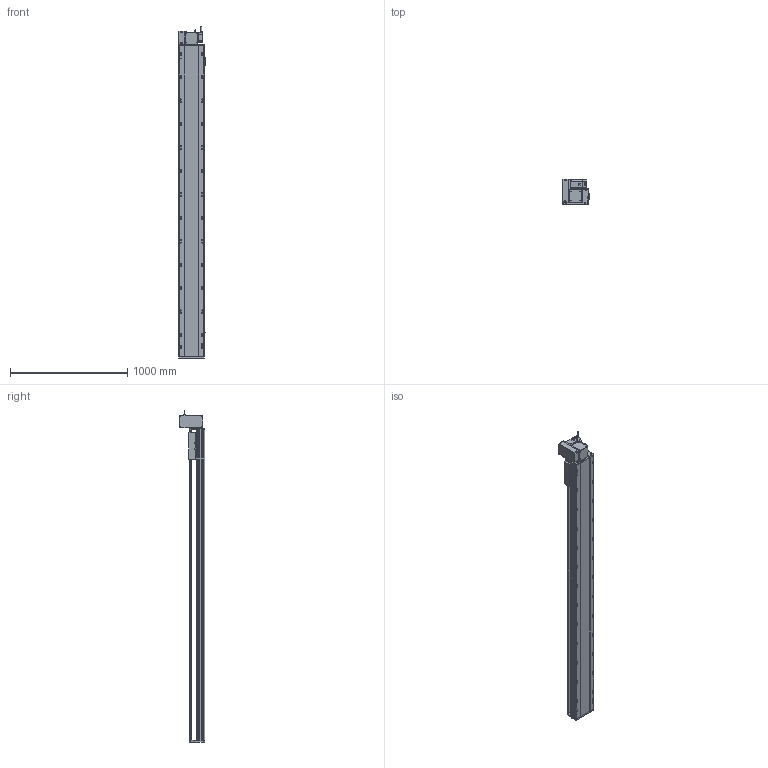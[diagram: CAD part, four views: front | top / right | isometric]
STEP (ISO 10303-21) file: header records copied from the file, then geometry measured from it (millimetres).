
FILE_DESCRIPTION (( 'STEP AP214' ), '1' );
FILE_NAME ('RTB22S-XX-2300-LW-M75-C4.STEP', '2025-12-12T06:02:33', ( '' ), ( '' ), 'SwSTEP 2.0', 'SolidWorks 2018', '' );
FILE_SCHEMA (( 'AUTOMOTIVE_DESIGN' ));
Length unit declared in the file: millimetre
Products named in the file (14): RTB22S-L-011菁釱^RTB22S-XX-XX-LW-M75-C4; RTB22S-GY-014--々湍釱^RTB22S-LW-々湍釱蚾饜_RTB22S-XX-XX-LW-M75-C4; RTB22S-GY-008-M75--萇儂啣^RTB22S-LW-々湍釱蚾饜_RTB22S-XX-XX-LW-M75-C4; RTB22S-L-004賑釱^RTB22S-XX-XX-LW-M75-C4; RTB22S-GY-017P^RTB22S-LW-々湍釱蚾饜_RTB22S-XX-XX-LW-M75-C4; RTB22S-GY-005P^RTB22S-LW-々湍釱蚾饜_RTB22S-XX-XX-LW-M75-C4; OMRON EE-SX672 传感器^RTB22S-XX-XX-LW-M75-C4; RTH22-GY-013外置感应片^RTB22S-XX-XX-LW-M75-C4; 750W萇儂^RTB22S-XX-XX-LW-M75-C4; RTB22S-GY-018P^RTB22S-LW-々湍釱蚾饜_RTB22S-XX-XX-LW-M75-C4; RTB22S-GY-007奻裔^RTB22S-XX-XX-LW-M75-C4; RTB22S-GY-001耜裔^RTB22S-XX-XX-LW-M75-C4; RTB22S-XX-2300-LW-M75-C4; RTB22S-LW-々湍釱蚾饜^RTB22S-XX-XX-LW-M75-C4
Assembly tree (16 placements, depth 3):
  RTB22S-XX-2300-LW-M75-C4
    RTB22S-L-011菁釱^RTB22S-XX-XX-LW-M75-C4
    RTB22S-GY-001耜裔^RTB22S-XX-XX-LW-M75-C4
    750W萇儂^RTB22S-XX-XX-LW-M75-C4
    RTB22S-GY-007奻裔^RTB22S-XX-XX-LW-M75-C4
    RTB22S-L-004賑釱^RTB22S-XX-XX-LW-M75-C4
    RTH22-GY-013外置感应片^RTB22S-XX-XX-LW-M75-C4
    OMRON EE-SX672 传感器^RTB22S-XX-XX-LW-M75-C4  x3
    RTB22S-LW-々湍釱蚾饜^RTB22S-XX-XX-LW-M75-C4
      RTB22S-GY-014--々湍釱^RTB22S-LW-々湍釱蚾饜_RTB22S-XX-XX-LW-M75-C4
      RTB22S-GY-017P^RTB22S-LW-々湍釱蚾饜_RTB22S-XX-XX-LW-M75-C4  x2
      RTB22S-GY-005P^RTB22S-LW-々湍釱蚾饜_RTB22S-XX-XX-LW-M75-C4
      RTB22S-GY-008-M75--萇儂啣^RTB22S-LW-々湍釱蚾饜_RTB22S-XX-XX-LW-M75-C4
      RTB22S-GY-018P^RTB22S-LW-々湍釱蚾饜_RTB22S-XX-XX-LW-M75-C4
Bounding box: 238.5 x 215.5 x 2832.2 mm (x, y, z)
Volume: 36432705 mm3; surface area: 3731273.5 mm2
Topology: 15 solids, 15 shells, 2091 faces, 5686 edges, 3632 vertices
Faces by surface type: plane 927, cylinder 694, bspline 296, cone 162, sphere 8, torus 4
Entity records: 56716 total; most frequent: CARTESIAN_POINT 16060, ORIENTED_EDGE 8112, DIRECTION 7910, EDGE_CURVE 4056, AXIS2_PLACEMENT_3D 2830, VERTEX_POINT 2636, LINE 2250, VECTOR 2250
